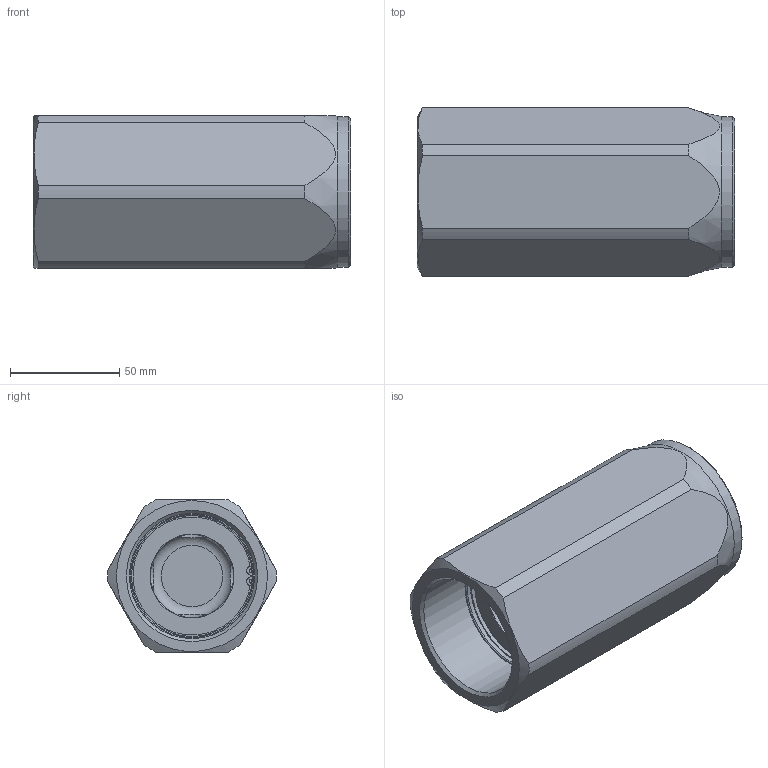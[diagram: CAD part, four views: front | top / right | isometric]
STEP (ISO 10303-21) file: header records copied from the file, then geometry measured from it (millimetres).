
FILE_DESCRIPTION (( 'STEP AP214' ), '1' );
FILE_NAME ('VUR200.STEP', '2020-06-15T07:07:39', ( '' ), ( '' ), 'SwSTEP 2.0', 'SolidWorks 2017', '' );
FILE_SCHEMA (( 'AUTOMOTIVE_DESIGN' ));
Length unit declared in the file: millimetre
Products named in the file (1): VUR200
Bounding box: 145 x 76.97 x 69.5 mm (x, y, z)
Volume: 283222.8 mm3; surface area: 89678.1 mm2
Topology: 4 solids, 4 shells, 73 faces, 172 edges, 107 vertices
Faces by surface type: cylinder 31, plane 22, cone 17, torus 3
Full cylindrical faces by diameter (mm): 1.667 x2, 21 x4, 38 x2, 40 x1, 48 x2, 55 x3, 55.3 x2, 57.25 x2, 59 x2, 69 x1
Entity records: 3764 total; most frequent: CARTESIAN_POINT 1412, DIRECTION 318, ORIENTED_EDGE 242, AXIS2_PLACEMENT_3D 151, EDGE_LOOP 130, EDGE_CURVE 121, FACE_OUTER_BOUND 97, VERTEX_POINT 97
